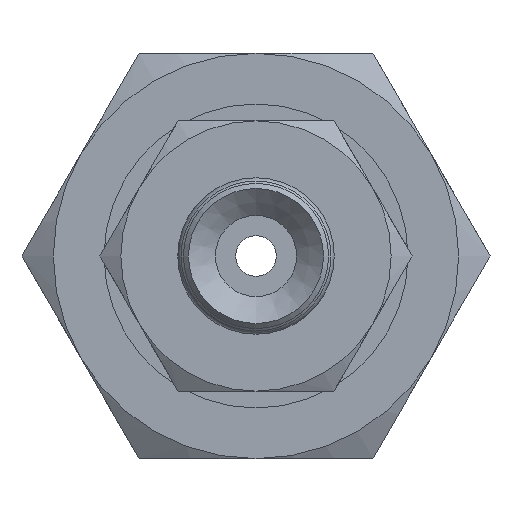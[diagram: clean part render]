
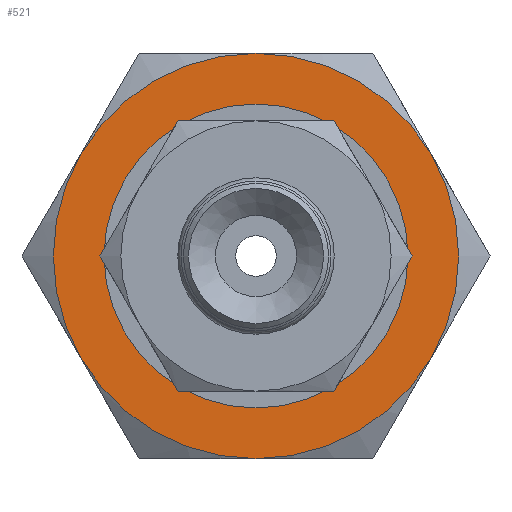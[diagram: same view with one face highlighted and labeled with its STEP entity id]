
A CAD part, front view. The second image highlights one B-rep face of the part: STEP entity #521.
In plain terms, the highlighted planar face has unit normal (0, -1, 0) as drawn and (-1, 0, 0) by its records, which use the part's own axes.
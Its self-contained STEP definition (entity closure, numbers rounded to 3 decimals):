
#521=ADVANCED_FACE('',(#727,#728),#729,.F.);
#727=FACE_BOUND('',#1025,.T.);
#728=FACE_OUTER_BOUND('',#1026,.T.);
#729=PLANE('',#1027);
#1025=EDGE_LOOP('',(#1631));
#1026=EDGE_LOOP('',(#1632,#1633,#1634,#1635,#1636,#1637));
#1027=AXIS2_PLACEMENT_3D('',#1638,#1639,#1640);
#1631=ORIENTED_EDGE('',*,*,#2063,.T.);
#1632=ORIENTED_EDGE('',*,*,#2044,.F.);
#1633=ORIENTED_EDGE('',*,*,#2081,.F.);
#1634=ORIENTED_EDGE('',*,*,#2077,.F.);
#1635=ORIENTED_EDGE('',*,*,#2052,.F.);
#1636=ORIENTED_EDGE('',*,*,#2051,.F.);
#1637=ORIENTED_EDGE('',*,*,#2046,.F.);
#1638=CARTESIAN_POINT('',(0.,0.0,0.0));
#1639=DIRECTION('',(1.0,0.0,0.0));
#1640=DIRECTION('',(0.0,1.0,0.0));
#2044=EDGE_CURVE('',#2317,#2320,#2321,.T.);
#2046=EDGE_CURVE('',#2320,#2323,#2324,.T.);
#2051=EDGE_CURVE('',#2323,#2328,#2332,.T.);
#2052=EDGE_CURVE('',#2328,#2333,#2334,.T.);
#2063=EDGE_CURVE('',#2352,#2352,#2353,.T.);
#2077=EDGE_CURVE('',#2333,#2366,#2373,.T.);
#2081=EDGE_CURVE('',#2366,#2317,#2378,.T.);
#2317=VERTEX_POINT('',#2797);
#2320=VERTEX_POINT('',#2820);
#2321=CIRCLE('',#2821,6.0);
#2323=VERTEX_POINT('',#2833);
#2324=CIRCLE('',#2834,6.0);
#2328=VERTEX_POINT('',#2858);
#2332=CIRCLE('',#2882,6.0);
#2333=VERTEX_POINT('',#2883);
#2334=CIRCLE('',#2884,6.0);
#2352=VERTEX_POINT('',#2942);
#2353=CIRCLE('',#2943,4.0);
#2366=VERTEX_POINT('',#2999);
#2373=CIRCLE('',#3056,6.0);
#2378=CIRCLE('',#3072,6.0);
#2797=CARTESIAN_POINT('',(0.,5.196,-3.0));
#2820=CARTESIAN_POINT('',(0.,5.196,3.0));
#2821=AXIS2_PLACEMENT_3D('',#3362,#3363,#3364);
#2833=CARTESIAN_POINT('',(0.,0.0,6.0));
#2834=AXIS2_PLACEMENT_3D('',#3365,#3366,#3367);
#2858=CARTESIAN_POINT('',(0.,-5.196,3.0));
#2882=AXIS2_PLACEMENT_3D('',#3368,#3369,#3370);
#2883=CARTESIAN_POINT('',(0.,-5.196,-3.0));
#2884=AXIS2_PLACEMENT_3D('',#3371,#3372,#3373);
#2942=CARTESIAN_POINT('',(0.,0.0,-4.0));
#2943=AXIS2_PLACEMENT_3D('',#3392,#3393,#3394);
#2999=CARTESIAN_POINT('',(0.,0.0,-6.0));
#3056=AXIS2_PLACEMENT_3D('',#3401,#3402,#3403);
#3072=AXIS2_PLACEMENT_3D('',#3408,#3409,#3410);
#3362=CARTESIAN_POINT('',(0.,0.0,0.0));
#3363=DIRECTION('',(1.0,0.0,0.0));
#3364=DIRECTION('',(0.0,0.0,-1.0));
#3365=CARTESIAN_POINT('',(0.,0.0,0.0));
#3366=DIRECTION('',(1.0,0.0,0.0));
#3367=DIRECTION('',(0.0,0.0,-1.0));
#3368=CARTESIAN_POINT('',(0.,0.0,0.0));
#3369=DIRECTION('',(1.0,0.0,0.0));
#3370=DIRECTION('',(0.0,0.0,-1.0));
#3371=CARTESIAN_POINT('',(0.,0.0,0.0));
#3372=DIRECTION('',(1.0,0.0,0.0));
#3373=DIRECTION('',(0.0,0.0,-1.0));
#3392=CARTESIAN_POINT('',(0.,0.0,0.0));
#3393=DIRECTION('',(1.0,0.0,0.0));
#3394=DIRECTION('',(0.0,0.0,-1.0));
#3401=CARTESIAN_POINT('',(0.,0.0,0.0));
#3402=DIRECTION('',(1.0,0.0,0.0));
#3403=DIRECTION('',(0.0,0.0,-1.0));
#3408=CARTESIAN_POINT('',(0.,0.0,0.0));
#3409=DIRECTION('',(1.0,0.0,0.0));
#3410=DIRECTION('',(0.0,0.0,-1.0));
